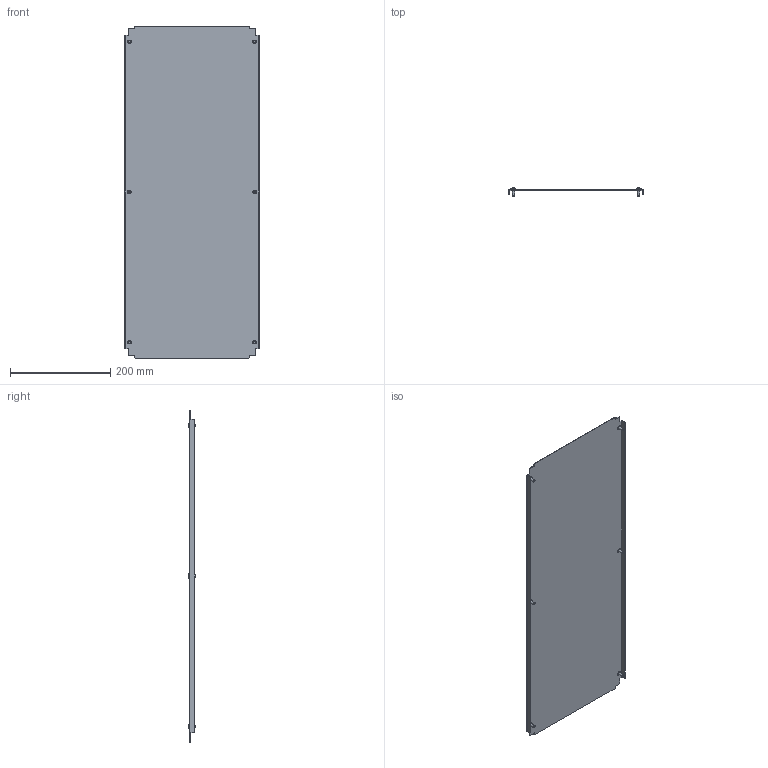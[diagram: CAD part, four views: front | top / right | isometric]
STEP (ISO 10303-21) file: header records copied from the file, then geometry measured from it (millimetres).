
FILE_DESCRIPTION (( 'STEP AP203' ), '1' );
FILE_NAME ('R5N1BP48.STEP', '2025-02-21T13:51:12', ( '' ), ( '' ), 'SwSTEP 2.0', 'SolidWorks 2022', '' );
FILE_SCHEMA (( 'CONFIG_CONTROL_DESIGN' ));
Length unit declared in the file: millimetre
Products named in the file (3): M5x12 DIN 7500 C Torx Zinc_stright; R5N1BP48; RB.1923.00.00.0_-06
Assembly tree (7 placements, depth 2):
  R5N1BP48
    RB.1923.00.00.0_-06
    M5x12 DIN 7500 C Torx Zinc_stright  x6
Bounding box: 268 x 15.56 x 662 mm (x, y, z)
Volume: 281236 mm3; surface area: 377169.4 mm2
Topology: 7 solids, 7 shells, 166 faces, 384 edges, 238 vertices
Faces by surface type: plane 106, cylinder 24, torus 12, cone 12, sphere 6, bspline 6
Full cylindrical faces by diameter (mm): 5 x6, 9.5 x6
Entity records: 3297 total; most frequent: CARTESIAN_POINT 674, ORIENTED_EDGE 448, DIRECTION 444, EDGE_CURVE 224, VECTOR 180, LINE 180, VERTEX_POINT 150, AXIS2_PLACEMENT_3D 132
